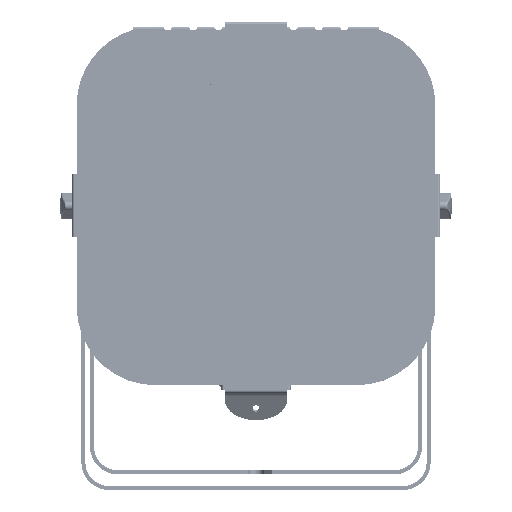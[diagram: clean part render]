
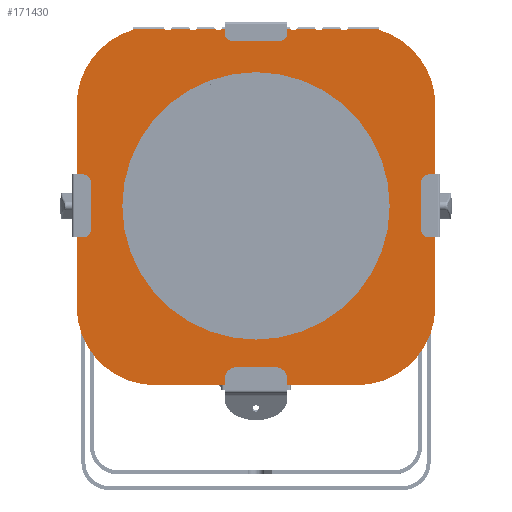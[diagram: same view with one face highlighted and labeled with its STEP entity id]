
A CAD part, top view. The second image highlights one B-rep face of the part: STEP entity #171430.
In plain terms, the highlighted planar face has unit normal (0, 0, 1) as drawn and (0, 0, -1) by its records, which use the part's own axes.
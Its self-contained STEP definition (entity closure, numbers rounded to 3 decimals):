
#169223=CARTESIAN_POINT('',(0.,0.,-1.7));
#169224=DIRECTION('',(0.,0.,1.));
#169225=DIRECTION('',(0.,1.,0.));
#169226=AXIS2_PLACEMENT_3D('',#169223,#169224,#169225);
#169231=CARTESIAN_POINT('',(0.,0.,-1.7));
#169232=DIRECTION('',(0.,0.,1.));
#169233=DIRECTION('',(0.,-1.,0.));
#169234=AXIS2_PLACEMENT_3D('',#169231,#169232,#169233);
#169239=CARTESIAN_POINT('',(64.,64.,-1.7));
#169240=DIRECTION('',(0.,0.,1.));
#169241=DIRECTION('',(1.,0.,0.));
#169242=AXIS2_PLACEMENT_3D('',#169239,#169240,#169241);
#169247=DIRECTION('',(-1.,0.,0.));
#169248=VECTOR('',#169247,128.);
#169249=CARTESIAN_POINT('',(64.,114.,-1.7));
#169250=LINE('',#169249,#169248);
#169254=CARTESIAN_POINT('',(-64.,64.,-1.7));
#169255=DIRECTION('',(0.,0.,1.));
#169256=DIRECTION('',(0.,1.,0.));
#169257=AXIS2_PLACEMENT_3D('',#169254,#169255,#169256);
#169262=DIRECTION('',(0.,-1.,0.));
#169263=VECTOR('',#169262,128.);
#169264=CARTESIAN_POINT('',(-114.,64.,-1.7));
#169265=LINE('',#169264,#169263);
#169269=CARTESIAN_POINT('',(-64.,-64.,-1.7));
#169270=DIRECTION('',(0.,0.,1.));
#169271=DIRECTION('',(-1.,0.,0.));
#169272=AXIS2_PLACEMENT_3D('',#169269,#169270,#169271);
#169277=DIRECTION('',(0.,1.,0.));
#169278=VECTOR('',#169277,0.4);
#169279=CARTESIAN_POINT('',(-78.,-112.4,-1.7));
#169280=LINE('',#169279,#169278);
#169284=DIRECTION('',(-1.,0.,0.));
#169285=VECTOR('',#169284,20.079);
#169286=CARTESIAN_POINT('',(-57.921,-112.4,-1.7));
#169287=LINE('',#169286,#169285);
#169291=DIRECTION('',(-1.,0.,0.));
#169292=VECTOR('',#169291,12.158);
#169293=CARTESIAN_POINT('',(-41.921,-112.4,-1.7));
#169294=LINE('',#169293,#169292);
#169298=DIRECTION('',(-1.,0.,0.));
#169299=VECTOR('',#169298,12.158);
#169300=CARTESIAN_POINT('',(-25.921,-112.4,-1.7));
#169301=LINE('',#169300,#169299);
#169305=DIRECTION('',(-1.,0.,0.));
#169306=VECTOR('',#169305,12.158);
#169307=CARTESIAN_POINT('',(-9.921,-112.4,-1.7));
#169308=LINE('',#169307,#169306);
#169312=DIRECTION('',(-1.,0.,0.));
#169313=VECTOR('',#169312,12.158);
#169314=CARTESIAN_POINT('',(6.079,-112.4,-1.7));
#169315=LINE('',#169314,#169313);
#169319=DIRECTION('',(-1.,0.,0.));
#169320=VECTOR('',#169319,12.158);
#169321=CARTESIAN_POINT('',(22.079,-112.4,-1.7));
#169322=LINE('',#169321,#169320);
#169326=DIRECTION('',(-1.,0.,0.));
#169327=VECTOR('',#169326,12.158);
#169328=CARTESIAN_POINT('',(38.079,-112.4,-1.7));
#169329=LINE('',#169328,#169327);
#169333=DIRECTION('',(-1.,0.,0.));
#169334=VECTOR('',#169333,12.158);
#169335=CARTESIAN_POINT('',(54.079,-112.4,-1.7));
#169336=LINE('',#169335,#169334);
#169340=DIRECTION('',(-1.,0.,0.));
#169341=VECTOR('',#169340,20.079);
#169342=CARTESIAN_POINT('',(78.,-112.4,-1.7));
#169343=LINE('',#169342,#169341);
#169347=DIRECTION('',(0.,1.,0.));
#169348=VECTOR('',#169347,0.4);
#169349=CARTESIAN_POINT('',(78.,-112.4,-1.7));
#169350=LINE('',#169349,#169348);
#169354=CARTESIAN_POINT('',(64.,-64.,-1.7));
#169355=DIRECTION('',(0.,0.,1.));
#169356=DIRECTION('',(0.28,-0.96,0.));
#169357=AXIS2_PLACEMENT_3D('',#169354,#169355,#169356);
#169362=DIRECTION('',(0.,1.,0.));
#169363=VECTOR('',#169362,128.);
#169364=CARTESIAN_POINT('',(114.,-64.,-1.7));
#169365=LINE('',#169364,#169363);
#169684=CARTESIAN_POINT('',(25.921,-112.4,-1.7));
#169701=CARTESIAN_POINT('',(22.079,-112.4,-1.7));
#169720=CARTESIAN_POINT('',(9.921,-112.4,-1.7));
#169725=CARTESIAN_POINT('',(6.079,-112.4,-1.7));
#169744=CARTESIAN_POINT('',(-6.079,-112.4,-1.7));
#169756=CARTESIAN_POINT('',(-22.079,-112.4,-1.7));
#169761=CARTESIAN_POINT('',(-9.921,-112.4,-1.7));
#169773=CARTESIAN_POINT('',(-25.921,-112.4,-1.7));
#169792=CARTESIAN_POINT('',(-38.079,-112.4,-1.7));
#169821=CARTESIAN_POINT('',(-41.921,-112.4,-1.7));
#169840=CARTESIAN_POINT('',(-54.079,-112.4,-1.7));
#169852=CARTESIAN_POINT('',(57.921,-112.4,-1.7));
#169873=CARTESIAN_POINT('',(-57.921,-112.4,-1.7));
#169885=CARTESIAN_POINT('',(24.,-114.,-1.7));
#169886=DIRECTION('',(0.,0.,1.));
#169887=DIRECTION('',(0.768,0.64,0.));
#169888=AXIS2_PLACEMENT_3D('',#169885,#169886,#169887);
#170377=CARTESIAN_POINT('',(40.,-114.,-1.7));
#170378=DIRECTION('',(0.,0.,1.));
#170379=DIRECTION('',(0.768,0.64,0.));
#170380=AXIS2_PLACEMENT_3D('',#170377,#170378,#170379);
#170821=CARTESIAN_POINT('',(56.,-114.,-1.7));
#170822=DIRECTION('',(0.,0.,1.));
#170823=DIRECTION('',(0.768,0.64,0.));
#170824=AXIS2_PLACEMENT_3D('',#170821,#170822,#170823);
#170853=CARTESIAN_POINT('',(8.,-114.,-1.7));
#170854=DIRECTION('',(0.,0.,1.));
#170855=DIRECTION('',(0.768,0.64,0.));
#170856=AXIS2_PLACEMENT_3D('',#170853,#170854,#170855);
#170885=CARTESIAN_POINT('',(-8.,-114.,-1.7));
#170886=DIRECTION('',(0.,0.,1.));
#170887=DIRECTION('',(0.768,0.64,0.));
#170888=AXIS2_PLACEMENT_3D('',#170885,#170886,#170887);
#170917=CARTESIAN_POINT('',(-24.,-114.,-1.7));
#170918=DIRECTION('',(0.,0.,1.));
#170919=DIRECTION('',(0.768,0.64,0.));
#170920=AXIS2_PLACEMENT_3D('',#170917,#170918,#170919);
#170949=CARTESIAN_POINT('',(-40.,-114.,-1.7));
#170950=DIRECTION('',(0.,0.,1.));
#170951=DIRECTION('',(0.768,0.64,0.));
#170952=AXIS2_PLACEMENT_3D('',#170949,#170950,#170951);
#170981=CARTESIAN_POINT('',(-56.,-114.,-1.7));
#170982=DIRECTION('',(0.,0.,1.));
#170983=DIRECTION('',(0.768,0.64,0.));
#170984=AXIS2_PLACEMENT_3D('',#170981,#170982,#170983);
#171111=CARTESIAN_POINT('',(0.,85.,-1.7));
#171112=CARTESIAN_POINT('',(0.,-85.,-1.7));
#171113=VERTEX_POINT('',#171111);
#171114=VERTEX_POINT('',#171112);
#171128=VERTEX_POINT('',#169684);
#171129=VERTEX_POINT('',#169701);
#171132=VERTEX_POINT('',#169720);
#171133=VERTEX_POINT('',#169725);
#171136=VERTEX_POINT('',#169756);
#171137=VERTEX_POINT('',#169773);
#171140=VERTEX_POINT('',#169744);
#171141=VERTEX_POINT('',#169761);
#171143=CARTESIAN_POINT('',(54.079,-112.4,-1.7));
#171144=CARTESIAN_POINT('',(41.921,-112.4,-1.7));
#171145=VERTEX_POINT('',#171143);
#171146=VERTEX_POINT('',#171144);
#171147=CARTESIAN_POINT('',(38.079,-112.4,-1.7));
#171148=VERTEX_POINT('',#171147);
#171251=VERTEX_POINT('',#169852);
#171252=VERTEX_POINT('',#169792);
#171253=VERTEX_POINT('',#169821);
#171254=VERTEX_POINT('',#169840);
#171255=VERTEX_POINT('',#169873);
#171277=CARTESIAN_POINT('',(114.,64.,-1.7));
#171278=CARTESIAN_POINT('',(64.,114.,-1.7));
#171279=VERTEX_POINT('',#171277);
#171280=VERTEX_POINT('',#171278);
#171281=CARTESIAN_POINT('',(78.,-112.,-1.7));
#171282=CARTESIAN_POINT('',(114.,-64.,-1.7));
#171283=VERTEX_POINT('',#171281);
#171284=VERTEX_POINT('',#171282);
#171285=CARTESIAN_POINT('',(-64.,114.,-1.7));
#171286=CARTESIAN_POINT('',(-114.,64.,-1.7));
#171287=VERTEX_POINT('',#171285);
#171288=VERTEX_POINT('',#171286);
#171289=CARTESIAN_POINT('',(-114.,-64.,-1.7));
#171290=CARTESIAN_POINT('',(-78.,-112.,-1.7));
#171291=VERTEX_POINT('',#171289);
#171292=VERTEX_POINT('',#171290);
#171341=CARTESIAN_POINT('',(78.,-112.4,-1.7));
#171342=VERTEX_POINT('',#171341);
#171349=CARTESIAN_POINT('',(-78.,-112.4,-1.7));
#171350=VERTEX_POINT('',#171349);
#171365=CARTESIAN_POINT('',(0.,0.,-1.7));
#171366=DIRECTION('',(0.,0.,1.));
#171367=DIRECTION('',(0.,1.,0.));
#171368=AXIS2_PLACEMENT_3D('',#171365,#171366,#171367);
#171369=PLANE('',#171368);
#171371=ORIENTED_EDGE('',*,*,#171370,.T.);
#171373=ORIENTED_EDGE('',*,*,#171372,.T.);
#171375=ORIENTED_EDGE('',*,*,#171374,.T.);
#171377=ORIENTED_EDGE('',*,*,#171376,.T.);
#171379=ORIENTED_EDGE('',*,*,#171378,.T.);
#171381=ORIENTED_EDGE('',*,*,#171380,.F.);
#171383=ORIENTED_EDGE('',*,*,#171382,.F.);
#171385=ORIENTED_EDGE('',*,*,#171384,.F.);
#171387=ORIENTED_EDGE('',*,*,#171386,.F.);
#171389=ORIENTED_EDGE('',*,*,#171388,.F.);
#171391=ORIENTED_EDGE('',*,*,#171390,.F.);
#171393=ORIENTED_EDGE('',*,*,#171392,.F.);
#171395=ORIENTED_EDGE('',*,*,#171394,.F.);
#171397=ORIENTED_EDGE('',*,*,#171396,.F.);
#171399=ORIENTED_EDGE('',*,*,#171398,.F.);
#171401=ORIENTED_EDGE('',*,*,#171400,.F.);
#171403=ORIENTED_EDGE('',*,*,#171402,.F.);
#171405=ORIENTED_EDGE('',*,*,#171404,.F.);
#171407=ORIENTED_EDGE('',*,*,#171406,.F.);
#171409=ORIENTED_EDGE('',*,*,#171408,.F.);
#171411=ORIENTED_EDGE('',*,*,#171410,.F.);
#171413=ORIENTED_EDGE('',*,*,#171412,.F.);
#171415=ORIENTED_EDGE('',*,*,#171414,.F.);
#171417=ORIENTED_EDGE('',*,*,#171416,.T.);
#171419=ORIENTED_EDGE('',*,*,#171418,.T.);
#171421=ORIENTED_EDGE('',*,*,#171420,.T.);
#171422=EDGE_LOOP('',(#171371,#171373,#171375,#171377,#171379,#171381,#171383,
#171385,#171387,#171389,#171391,#171393,#171395,#171397,#171399,#171401,#171403,
#171405,#171407,#171409,#171411,#171413,#171415,#171417,#171419,#171421));
#171423=FACE_OUTER_BOUND('',#171422,.F.);
#171425=ORIENTED_EDGE('',*,*,#171424,.F.);
#171427=ORIENTED_EDGE('',*,*,#171426,.F.);
#171428=EDGE_LOOP('',(#171425,#171427));
#171429=FACE_BOUND('',#171428,.F.);
#169227=CIRCLE('',#169226,85.);
#169235=CIRCLE('',#169234,85.);
#169243=CIRCLE('',#169242,50.);
#169258=CIRCLE('',#169257,50.);
#169273=CIRCLE('',#169272,50.);
#169358=CIRCLE('',#169357,50.);
#169889=CIRCLE('',#169888,2.5);
#170381=CIRCLE('',#170380,2.5);
#170825=CIRCLE('',#170824,2.5);
#170857=CIRCLE('',#170856,2.5);
#170889=CIRCLE('',#170888,2.5);
#170921=CIRCLE('',#170920,2.5);
#170953=CIRCLE('',#170952,2.5);
#170985=CIRCLE('',#170984,2.5);
#171370=EDGE_CURVE('',#171279,#171280,#169243,.T.);
#171372=EDGE_CURVE('',#171280,#171287,#169250,.T.);
#171374=EDGE_CURVE('',#171287,#171288,#169258,.T.);
#171376=EDGE_CURVE('',#171288,#171291,#169265,.T.);
#171378=EDGE_CURVE('',#171291,#171292,#169273,.T.);
#171380=EDGE_CURVE('',#171350,#171292,#169280,.T.);
#171382=EDGE_CURVE('',#171255,#171350,#169287,.T.);
#171384=EDGE_CURVE('',#171254,#171255,#170985,.T.);
#171386=EDGE_CURVE('',#171253,#171254,#169294,.T.);
#171388=EDGE_CURVE('',#171252,#171253,#170953,.T.);
#171390=EDGE_CURVE('',#171137,#171252,#169301,.T.);
#171392=EDGE_CURVE('',#171136,#171137,#170921,.T.);
#171394=EDGE_CURVE('',#171141,#171136,#169308,.T.);
#171396=EDGE_CURVE('',#171140,#171141,#170889,.T.);
#171398=EDGE_CURVE('',#171133,#171140,#169315,.T.);
#171400=EDGE_CURVE('',#171132,#171133,#170857,.T.);
#171402=EDGE_CURVE('',#171129,#171132,#169322,.T.);
#171404=EDGE_CURVE('',#171128,#171129,#169889,.T.);
#171406=EDGE_CURVE('',#171148,#171128,#169329,.T.);
#171408=EDGE_CURVE('',#171146,#171148,#170381,.T.);
#171410=EDGE_CURVE('',#171145,#171146,#169336,.T.);
#171412=EDGE_CURVE('',#171251,#171145,#170825,.T.);
#171414=EDGE_CURVE('',#171342,#171251,#169343,.T.);
#171416=EDGE_CURVE('',#171342,#171283,#169350,.T.);
#171418=EDGE_CURVE('',#171283,#171284,#169358,.T.);
#171420=EDGE_CURVE('',#171284,#171279,#169365,.T.);
#171424=EDGE_CURVE('',#171113,#171114,#169227,.T.);
#171426=EDGE_CURVE('',#171114,#171113,#169235,.T.);
#171430=ADVANCED_FACE('',(#171423,#171429),#171369,.F.);
